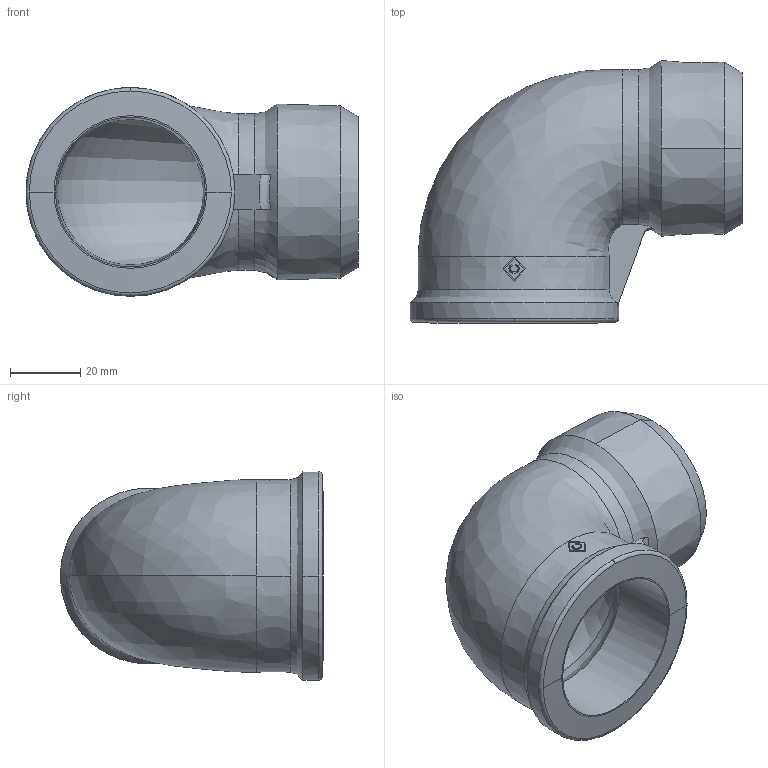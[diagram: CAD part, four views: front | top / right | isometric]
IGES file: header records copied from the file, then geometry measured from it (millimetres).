
Global section: file name: No Iges File Name specified; native system: AutoDesk Inventor R12.0; preprocessor: AutoDesk Inventor Iges Exporter R12.0; date: 20090916.094735; units: millimetre
Bounding box: 94.8 x 75.07 x 59.6 mm (x, y, z)
Volume: 75426.2 mm3; surface area: 31665.9 mm2
Topology: 1 solids, 1 shells, 50 faces, 168 edges, 122 vertices
Faces by surface type: bspline 24, plane 14, cone 6, cylinder 2, torus 2, revolution 2
